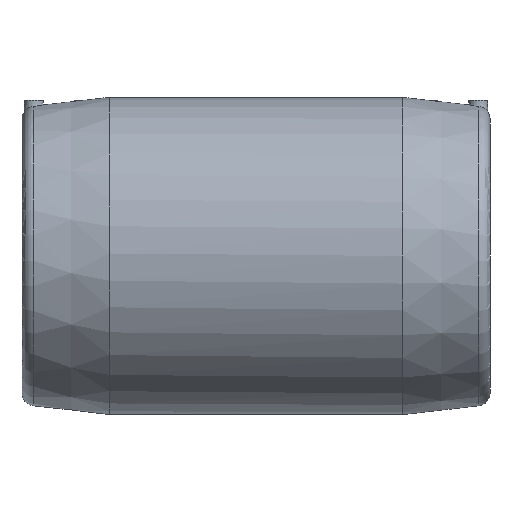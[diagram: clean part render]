
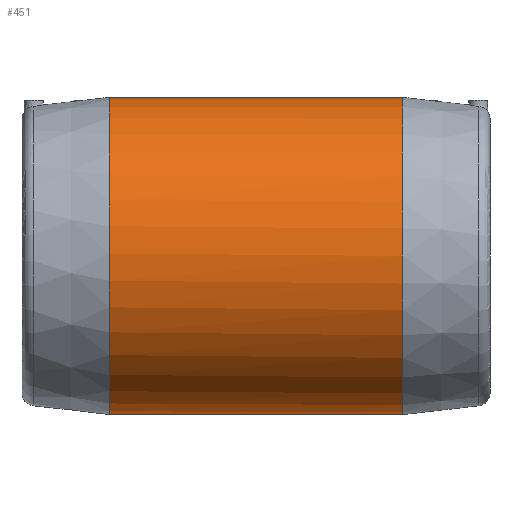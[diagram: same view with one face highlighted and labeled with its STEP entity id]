
A CAD part, front view. The second image highlights one B-rep face of the part: STEP entity #451.
In plain terms, the highlighted cylindrical face has radius 162 mm (diameter 324 mm), a full revolution.
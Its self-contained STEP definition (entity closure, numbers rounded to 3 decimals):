
#51=B_SPLINE_CURVE_WITH_KNOTS('',3,(#904,#905,#906,#907,#908,#909,#910,
#911,#912,#913,#914,#915,#916,#917,#918,#919,#920,#921,#922,#923,#924,#925,
#926,#927,#928,#929,#930,#931,#932,#933,#934,#935,#936,#937,#938,#939,#940,
#941,#942,#943,#944,#945,#946,#947,#948,#949,#950,#951,#952,#953,#954,#955,
#956,#957,#958,#959,#960,#961,#962,#963,#964,#965,#966,#967,#968,#969,#970,
#971,#972,#973,#974,#975,#976,#977,#978,#979,#980,#981,#982,#983,#984,#985,
#986),.UNSPECIFIED.,.T.,.F.,(1,1,1,1,1,1,1,1,1,1,1,1,1,1,1,1,1,1,1,1,1,
1,1,1,1,1,1,1,1,1,1,1,1,1,1,1,1,1,1,1,1,1,1,1,1,1,1,1,1,1,1,1,1,1,1,1,1,
1,1,1,1,1,1,1,1,1,1,1,1,1,1,1,1,1,1,1,1,1,1,1,1,1,1,1,1,1,1),(-0.021,
-0.014,-0.007,0.,0.014,0.021,
0.029,0.043,0.05,0.057,
0.071,0.086,0.1,0.114,
0.129,0.143,0.157,0.171,
0.186,0.193,0.2,0.207,
0.214,0.221,0.228,0.243,
0.25,0.257,0.271,0.278,
0.286,0.3,0.314,0.328,
0.343,0.357,0.371,0.386,
0.4,0.414,0.428,0.436,
0.443,0.457,0.464,0.471,
0.486,0.5,0.507,0.514,
0.528,0.543,0.557,0.571,
0.585,0.6,0.614,0.628,
0.643,0.657,0.671,0.685,
0.7,0.707,0.714,0.728,
0.743,0.75,0.757,0.771,
0.785,0.8,0.807,0.814,
0.828,0.842,0.857,0.864,
0.871,0.885,0.892,0.9,
0.907,0.914,0.928,0.935,
0.942),.UNSPECIFIED.);
#63=CYLINDRICAL_SURFACE('',#517,162.);
#110=ORIENTED_EDGE('',*,*,#189,.T.);
#111=ORIENTED_EDGE('',*,*,#177,.F.);
#112=ORIENTED_EDGE('',*,*,#175,.T.);
#175=EDGE_CURVE('',#221,#221,#260,.T.);
#177=EDGE_CURVE('',#223,#223,#261,.T.);
#189=EDGE_CURVE('',#234,#234,#51,.T.);
#221=VERTEX_POINT('',#758);
#223=VERTEX_POINT('',#773);
#234=VERTEX_POINT('',#987);
#260=CIRCLE('',#504,162.);
#261=CIRCLE('',#506,162.);
#312=EDGE_LOOP('',(#110));
#313=EDGE_LOOP('',(#111));
#314=EDGE_LOOP('',(#112));
#382=FACE_BOUND('',#312,.T.);
#383=FACE_BOUND('',#313,.T.);
#384=FACE_BOUND('',#314,.T.);
#451=ADVANCED_FACE('',(#382,#383,#384),#63,.T.);
#504=AXIS2_PLACEMENT_3D('',#757,#588,#589);
#506=AXIS2_PLACEMENT_3D('',#772,#592,#593);
#517=AXIS2_PLACEMENT_3D('',#903,#616,#617);
#588=DIRECTION('',(-1.,0.,0.));
#589=DIRECTION('',(0.,0.,1.));
#592=DIRECTION('',(-1.,0.,0.));
#593=DIRECTION('',(0.,0.,1.));
#616=DIRECTION('',(-1.,0.,0.));
#617=DIRECTION('',(0.,0.,1.));
#757=CARTESIAN_POINT('',(150.,0.,0.));
#758=CARTESIAN_POINT('',(150.,0.,162.));
#772=CARTESIAN_POINT('',(-150.,0.,0.));
#773=CARTESIAN_POINT('',(-150.,0.,162.));
#903=CARTESIAN_POINT('',(-60.,0.,0.));
#904=CARTESIAN_POINT('',(138.865,161.894,-7.179));
#905=CARTESIAN_POINT('',(139.134,162.106,2.403));
#906=CARTESIAN_POINT('',(138.6,161.684,11.899));
#907=CARTESIAN_POINT('',(137.275,160.643,21.321));
#908=CARTESIAN_POINT('',(135.455,159.215,30.529));
#909=CARTESIAN_POINT('',(132.93,157.245,39.407));
#910=CARTESIAN_POINT('',(129.743,154.782,47.974));
#911=CARTESIAN_POINT('',(126.106,151.99,56.362));
#912=CARTESIAN_POINT('',(120.877,148.024,66.214));
#913=CARTESIAN_POINT('',(113.611,142.629,77.127));
#914=CARTESIAN_POINT('',(105.361,136.676,87.216));
#915=CARTESIAN_POINT('',(96.399,130.446,96.257));
#916=CARTESIAN_POINT('',(86.727,124.036,104.369));
#917=CARTESIAN_POINT('',(76.264,117.529,111.625));
#918=CARTESIAN_POINT('',(65.196,111.217,117.892));
#919=CARTESIAN_POINT('',(53.508,105.298,123.186));
#920=CARTESIAN_POINT('',(43.133,100.868,126.794));
#921=CARTESIAN_POINT('',(34.388,97.801,129.156));
#922=CARTESIAN_POINT('',(27.721,95.832,130.621));
#923=CARTESIAN_POINT('',(20.907,94.224,131.783));
#924=CARTESIAN_POINT('',(13.942,93.027,132.629));
#925=CARTESIAN_POINT('',(6.798,92.289,133.142));
#926=CARTESIAN_POINT('',(-2.655,91.985,133.352));
#927=CARTESIAN_POINT('',(-12.04,92.677,132.877));
#928=CARTESIAN_POINT('',(-21.407,94.326,131.71));
#929=CARTESIAN_POINT('',(-30.511,96.518,130.123));
#930=CARTESIAN_POINT('',(-39.235,99.402,127.949));
#931=CARTESIAN_POINT('',(-47.648,102.795,125.224));
#932=CARTESIAN_POINT('',(-55.889,106.491,122.125));
#933=CARTESIAN_POINT('',(-65.642,111.459,117.663));
#934=CARTESIAN_POINT('',(-76.62,117.744,111.395));
#935=CARTESIAN_POINT('',(-86.942,124.174,104.205));
#936=CARTESIAN_POINT('',(-96.703,130.652,95.982));
#937=CARTESIAN_POINT('',(-105.617,136.859,86.923));
#938=CARTESIAN_POINT('',(-113.701,142.696,76.994));
#939=CARTESIAN_POINT('',(-120.926,148.06,66.14));
#940=CARTESIAN_POINT('',(-127.258,152.865,54.163));
#941=CARTESIAN_POINT('',(-132.331,156.777,41.528));
#942=CARTESIAN_POINT('',(-135.487,159.24,30.412));
#943=CARTESIAN_POINT('',(-137.312,160.671,21.106));
#944=CARTESIAN_POINT('',(-138.608,161.691,11.774));
#945=CARTESIAN_POINT('',(-139.13,162.103,2.371));
#946=CARTESIAN_POINT('',(-138.87,161.898,-7.082));
#947=CARTESIAN_POINT('',(-138.071,161.268,-16.621));
#948=CARTESIAN_POINT('',(-136.113,159.729,-28.176));
#949=CARTESIAN_POINT('',(-132.982,157.285,-39.249));
#950=CARTESIAN_POINT('',(-129.796,154.823,-47.842));
#951=CARTESIAN_POINT('',(-126.163,152.034,-56.244));
#952=CARTESIAN_POINT('',(-120.952,148.08,-66.088));
#953=CARTESIAN_POINT('',(-113.694,142.69,-77.016));
#954=CARTESIAN_POINT('',(-105.442,136.734,-87.126));
#955=CARTESIAN_POINT('',(-96.507,130.52,-96.157));
#956=CARTESIAN_POINT('',(-86.873,124.131,-104.253));
#957=CARTESIAN_POINT('',(-76.531,117.689,-111.456));
#958=CARTESIAN_POINT('',(-65.383,111.316,-117.801));
#959=CARTESIAN_POINT('',(-53.667,105.373,-123.121));
#960=CARTESIAN_POINT('',(-41.267,100.061,-127.454));
#961=CARTESIAN_POINT('',(-27.958,95.693,-130.742));
#962=CARTESIAN_POINT('',(-14.24,92.827,-132.774));
#963=CARTESIAN_POINT('',(0.147,91.8,-133.478));
#964=CARTESIAN_POINT('',(11.883,92.662,-132.887));
#965=CARTESIAN_POINT('',(21.188,94.28,-131.743));
#966=CARTESIAN_POINT('',(30.367,96.474,-130.156));
#967=CARTESIAN_POINT('',(41.27,100.069,-127.447));
#968=CARTESIAN_POINT('',(51.637,104.502,-123.833));
#969=CARTESIAN_POINT('',(59.646,108.405,-120.406));
#970=CARTESIAN_POINT('',(67.354,112.441,-116.682));
#971=CARTESIAN_POINT('',(76.515,117.681,-111.461));
#972=CARTESIAN_POINT('',(86.831,124.103,-104.287));
#973=CARTESIAN_POINT('',(94.911,129.461,-97.502));
#974=CARTESIAN_POINT('',(101.054,133.683,-91.56));
#975=CARTESIAN_POINT('',(106.885,137.775,-85.361));
#976=CARTESIAN_POINT('',(113.633,142.646,-77.087));
#977=CARTESIAN_POINT('',(120.839,147.995,-66.276));
#978=CARTESIAN_POINT('',(126.069,151.962,-56.438));
#979=CARTESIAN_POINT('',(129.718,154.762,-48.036));
#980=CARTESIAN_POINT('',(132.91,157.23,-39.468));
#981=CARTESIAN_POINT('',(135.441,159.204,-30.584));
#982=CARTESIAN_POINT('',(137.266,160.635,-21.38));
#983=CARTESIAN_POINT('',(138.265,161.421,-14.293));
#984=CARTESIAN_POINT('',(138.865,161.894,-7.179));
#985=CARTESIAN_POINT('',(139.134,162.106,2.403));
#986=CARTESIAN_POINT('',(138.6,161.684,11.899));
#987=CARTESIAN_POINT('',(139.,162.,0.));
